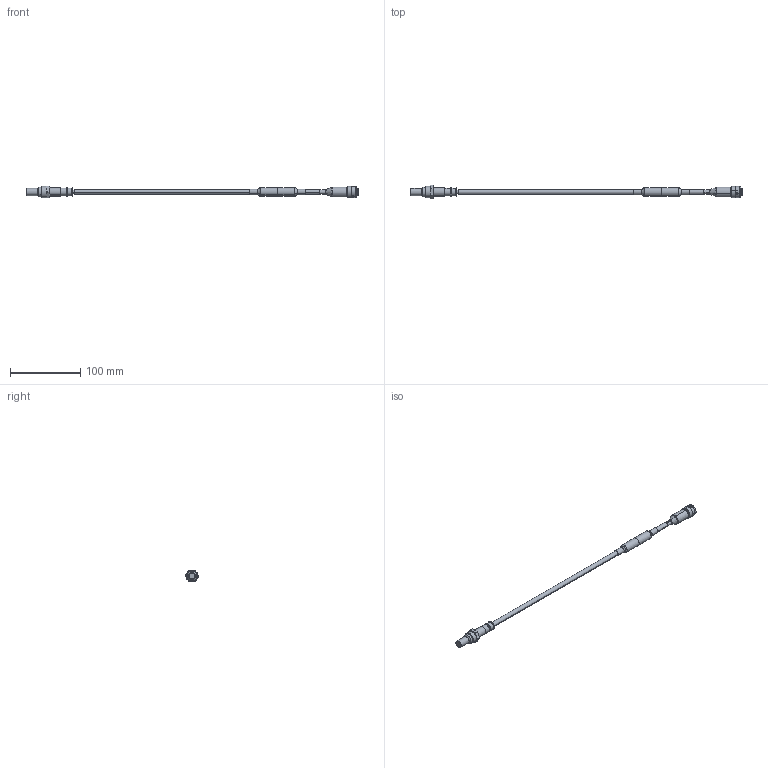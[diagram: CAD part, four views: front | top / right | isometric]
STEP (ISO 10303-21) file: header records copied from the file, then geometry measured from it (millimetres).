
FILE_DESCRIPTION(('CATIA V5 STEP Exchange','CAx-IF Rec.Pracs.--- Model Styling and Organization---1.2---2011-12-15'),'2;1');
FILE_NAME('K:\DfsDE\DIV\BEG\MSD\Entwicklungsprojekte\Sensorik\03_Hardware\03_Sensoren\Datenbank\Lambda_Sensors\F 02U V02 227-01\Bosch Motorsport Unterlagen\F_02U_V02_227-01_Lambdasonde_mini_LSU4.9.stp','2015-09-28T09:12:31+00:00',('none'),('none'),'CATIA Version 5-6 Release 2014 SP4 HF25','CATIA V5 STEP AP214','none');
FILE_SCHEMA(('AUTOMOTIVE_DESIGN { 1 0 10303 214 1 1 1 1 }'));
Length unit declared in the file: millimetre
Products named in the file (6): F_02U_V02_227-01_Lambdasonde_mini_LSU4.9; Mini_LSU_ohne_Kabel_20150925; 202K121; Kabel; Hitzeschutz; Deutsch AS607-35PN
Assembly tree (5 placements, depth 2):
  F_02U_V02_227-01_Lambdasonde_mini_LSU4.9
    Mini_LSU_ohne_Kabel_20150925
    202K121
    Kabel
    Hitzeschutz
    Deutsch AS607-35PN
Bounding box: 473.1 x 19.5 x 17 mm (x, y, z)
Volume: 29978.8 mm3; surface area: 28106.6 mm2
Topology: 6 solids, 6 shells, 243 faces, 561 edges, 345 vertices
Faces by surface type: cylinder 130, plane 61, cone 20, torus 20, sphere 12
Entity records: 6514 total; most frequent: CARTESIAN_POINT 1273, ORIENTED_EDGE 1098, DIRECTION 832, EDGE_CURVE 549, AXIS2_PLACEMENT_3D 456, VERTEX_POINT 345, CIRCLE 299, EDGE_LOOP 280
